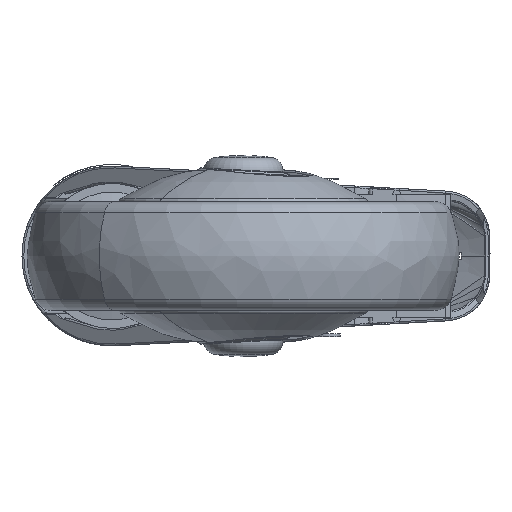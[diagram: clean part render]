
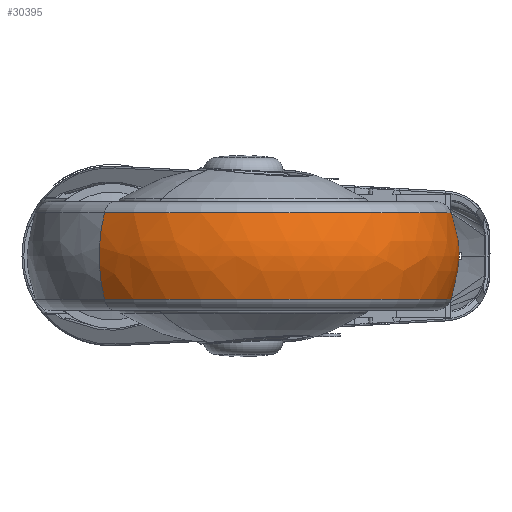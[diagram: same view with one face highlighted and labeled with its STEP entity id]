
A CAD part, front view. The second image highlights one B-rep face of the part: STEP entity #30395.
In plain terms, the highlighted free-form (B-spline) face has degree [3, 3] with [7, 4] control points.
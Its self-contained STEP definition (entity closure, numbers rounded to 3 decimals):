
#30221=CARTESIAN_POINT('',(38.,-82.3,-12.54));
#30222=DIRECTION('',(0.,0.,-1.));
#30223=DIRECTION('',(0.667,0.745,0.));
#30224=AXIS2_PLACEMENT_3D('',#30221,#30222,#30223);
#30226=CARTESIAN_POINT('',(19.688,-102.772,0.));
#30227=DIRECTION('',(0.745,-0.667,0.));
#30228=DIRECTION('',(-0.623,-0.696,0.358));
#30229=AXIS2_PLACEMENT_3D('',#30226,#30227,#30228);
#30231=CARTESIAN_POINT('',(38.,-82.3,12.54));
#30232=DIRECTION('',(0.,0.,-1.));
#30233=DIRECTION('',(0.667,0.745,0.));
#30234=AXIS2_PLACEMENT_3D('',#30231,#30232,#30233);
#30236=CARTESIAN_POINT('',(56.312,-61.828,0.));
#30237=DIRECTION('',(-0.745,0.667,0.));
#30238=DIRECTION('',(0.623,0.696,0.358));
#30239=AXIS2_PLACEMENT_3D('',#30236,#30237,#30238);
#30290=CARTESIAN_POINT('',(78.121,-37.446,
-12.54));
#30291=CARTESIAN_POINT('',(-2.121,-127.154,
-12.54));
#30292=VERTEX_POINT('',#30290);
#30293=VERTEX_POINT('',#30291);
#30294=CARTESIAN_POINT('',(78.121,-37.446,
12.54));
#30295=CARTESIAN_POINT('',(-2.121,-127.154,
12.54));
#30296=VERTEX_POINT('',#30294);
#30297=VERTEX_POINT('',#30295);
#30357=CARTESIAN_POINT('',(-4.724,-124.415,
-13.017));
#30358=CARTESIAN_POINT('',(-7.136,-126.792,
-4.557));
#30359=CARTESIAN_POINT('',(-7.136,-126.792,
4.557));
#30360=CARTESIAN_POINT('',(-4.724,-124.415,
13.017));
#30361=CARTESIAN_POINT('',(21.193,-150.707,
-13.017));
#30362=CARTESIAN_POINT('',(20.244,-154.568,
-4.557));
#30363=CARTESIAN_POINT('',(20.244,-154.568,
4.557));
#30364=CARTESIAN_POINT('',(21.193,-150.707,
13.017));
#30365=CARTESIAN_POINT('',(58.101,-149.813,
-13.017));
#30366=CARTESIAN_POINT('',(59.235,-153.623,
-4.557));
#30367=CARTESIAN_POINT('',(59.235,-153.623,
4.557));
#30368=CARTESIAN_POINT('',(58.101,-149.813,
13.017));
#30369=CARTESIAN_POINT('',(82.714,-122.296,
-13.017));
#30370=CARTESIAN_POINT('',(85.238,-124.553,
-4.557));
#30371=CARTESIAN_POINT('',(85.238,-124.553,
4.557));
#30372=CARTESIAN_POINT('',(82.714,-122.296,
13.017));
#30373=CARTESIAN_POINT('',(107.327,-94.779,
-13.017));
#30374=CARTESIAN_POINT('',(111.241,-95.483,
-4.557));
#30375=CARTESIAN_POINT('',(111.241,-95.483,
4.557));
#30376=CARTESIAN_POINT('',(107.327,-94.779,
13.017));
#30377=CARTESIAN_POINT('',(104.117,-58.,
-13.017));
#30378=CARTESIAN_POINT('',(107.849,-56.628,
-4.557));
#30379=CARTESIAN_POINT('',(107.849,-56.628,
4.557));
#30380=CARTESIAN_POINT('',(104.117,-58.,
13.017));
#30381=CARTESIAN_POINT('',(75.109,-35.163,
-13.017));
#30382=CARTESIAN_POINT('',(77.204,-32.502,
-4.557));
#30383=CARTESIAN_POINT('',(77.204,-32.502,
4.557));
#30384=CARTESIAN_POINT('',(75.109,-35.163,
13.017));
#30385=(BOUNDED_SURFACE()B_SPLINE_SURFACE(3,3,((#30357,#30358,#30359,#30360),(
#30361,#30362,#30363,#30364),(#30365,#30366,#30367,#30368),(#30369,#30370,
#30371,#30372),(#30373,#30374,#30375,#30376),(#30377,#30378,#30379,#30380),(
#30381,#30382,#30383,#30384)),.UNSPECIFIED.,.F.,.F.,.F.)B_SPLINE_SURFACE_WITH_KNOTS((4,3,4),(4,4),(0.,1.,2.),(0.,1.),.UNSPECIFIED.)GEOMETRIC_REPRESENTATION_ITEM()RATIONAL_B_SPLINE_SURFACE(((1.231,1.173,
1.173,1.231),(0.972,0.926,
0.926,0.972),(0.972,0.926,
0.926,0.972),(1.231,1.173,
1.173,1.231),(0.972,0.926,
0.926,0.972),(0.972,0.926,
0.926,0.972),(1.231,1.173,
1.173,1.231)))REPRESENTATION_ITEM('')SURFACE());
#30387=ORIENTED_EDGE('',*,*,#30386,.T.);
#30389=ORIENTED_EDGE('',*,*,#30388,.F.);
#30390=ORIENTED_EDGE('',*,*,#30340,.F.);
#30392=ORIENTED_EDGE('',*,*,#30391,.T.);
#30393=EDGE_LOOP('',(#30387,#30389,#30390,#30392));
#30394=FACE_OUTER_BOUND('',#30393,.F.);
#30225=CIRCLE('',#30224,60.179);
#30230=CIRCLE('',#30229,35.033);
#30235=CIRCLE('',#30234,60.179);
#30240=CIRCLE('',#30239,35.033);
#30340=EDGE_CURVE('',#30296,#30297,#30235,.T.);
#30386=EDGE_CURVE('',#30292,#30293,#30225,.T.);
#30388=EDGE_CURVE('',#30297,#30293,#30230,.T.);
#30391=EDGE_CURVE('',#30296,#30292,#30240,.T.);
#30395=ADVANCED_FACE('',(#30394),#30385,.T.);
